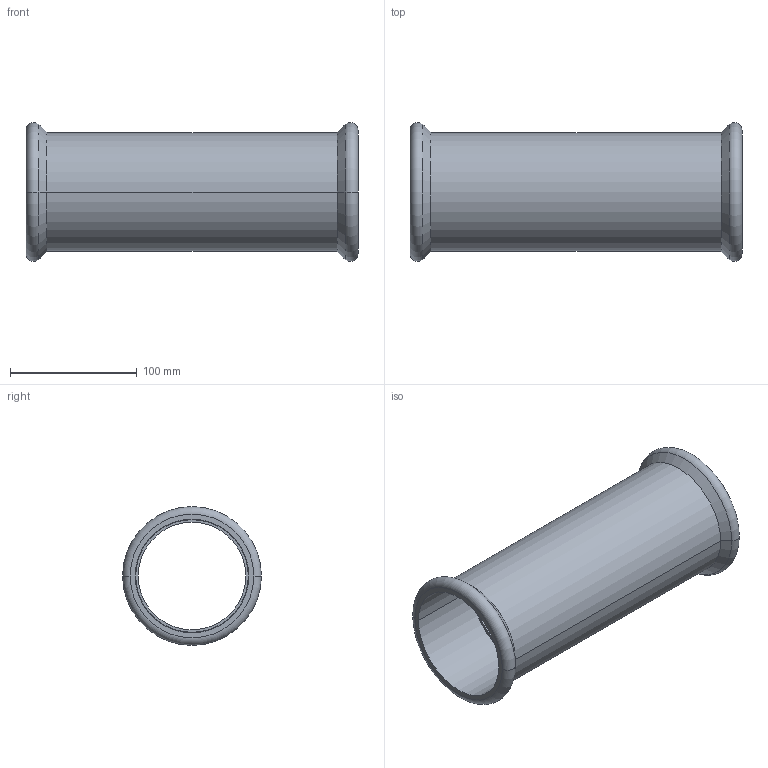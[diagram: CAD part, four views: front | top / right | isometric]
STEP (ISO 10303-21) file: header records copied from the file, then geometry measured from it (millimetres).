
FILE_DESCRIPTION(('CoCreate Modeling STEP Export'),'2;1');
FILE_NAME('C1403 88.9x88.9.stp','2014-11-07T14:09:58',(''),(''),'CoCreate Modeling STEP processor for AP214 (Solid Model)','CoCreate Modeling 17.00A 17-Jun-2010 (C) Parametric Technology GmbH','');
FILE_SCHEMA(('AUTOMOTIVE_DESIGN { 1 0 10303 214 1 1 1 1 }'));
Length unit declared in the file: millimetre
Products named in the file (2): C1403_89x89
Assembly tree (1 placements, depth 2):
  C1403_89x89
    C1403_89x89
Bounding box: 262 x 109.48 x 109.48 mm (x, y, z)
Volume: 300793.9 mm3; surface area: 158221.8 mm2
Topology: 1 solids, 1 shells, 26 faces, 54 edges, 34 vertices
Faces by surface type: cylinder 12, plane 6, cone 4, torus 4
Entity records: 617 total; most frequent: ORIENTED_EDGE 108, DIRECTION 92, CARTESIAN_POINT 88, EDGE_CURVE 54, AXIS2_PLACEMENT_3D 38, VERTEX_POINT 34, EDGE_LOOP 32, FACE_OUTER_BOUND 26
